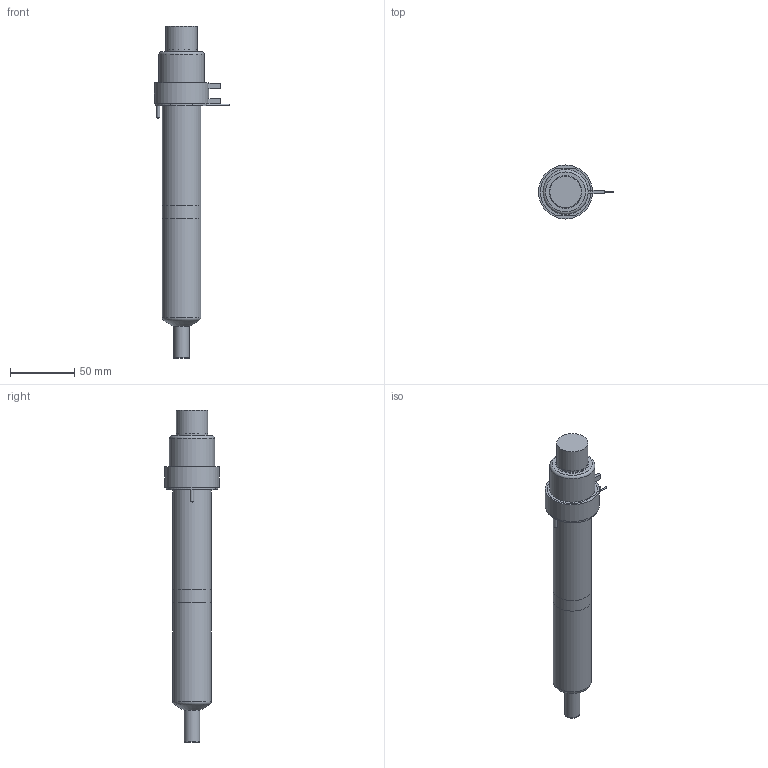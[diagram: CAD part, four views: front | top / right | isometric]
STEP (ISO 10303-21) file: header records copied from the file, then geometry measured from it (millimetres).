
FILE_DESCRIPTION(/* description */ (''),/* implementation_level */ '2;1');
FILE_NAME(/* name */ 'SXYCN16175P4F_200C_a',/* time_stamp */ '2016-03-03T17:03:25+13:00',/* author */ (''),/* organization */ (''),/* preprocessor_version */ 'ST-DEVELOPER v9',/* originating_system */ 'UGS - NX 4.0',/* authorisation */ '');
FILE_SCHEMA (('CONFIG_CONTROL_DESIGN'));
Length unit declared in the file: millimetre
Products named in the file (1): matt9EABfnqr
Bounding box: 58.25 x 42 x 257.74 mm (x, y, z)
Volume: 312301.8 mm3; surface area: 51823.5 mm2
Topology: 7 solids, 7 shells, 91 faces, 175 edges, 112 vertices
Faces by surface type: plane 45, cylinder 29, torus 8, cone 7, bspline 1, sphere 1
Full cylindrical faces by diameter (mm): 1 x3, 2 x1, 2.5 x2, 5 x1, 7 x1, 11.61 x1, 11.995 x2, 14.8 x1, 24 x1, 24.4 x1, 25.4 x1, 30 x2, 31.8 x1, 35 x1, 40 x1, 42 x1
Entity records: 2230 total; most frequent: CARTESIAN_POINT 435, DIRECTION 378, ORIENTED_EDGE 266, AXIS2_PLACEMENT_3D 164, EDGE_LOOP 140, EDGE_CURVE 133, VERTEX_POINT 106, ADVANCED_FACE 91
